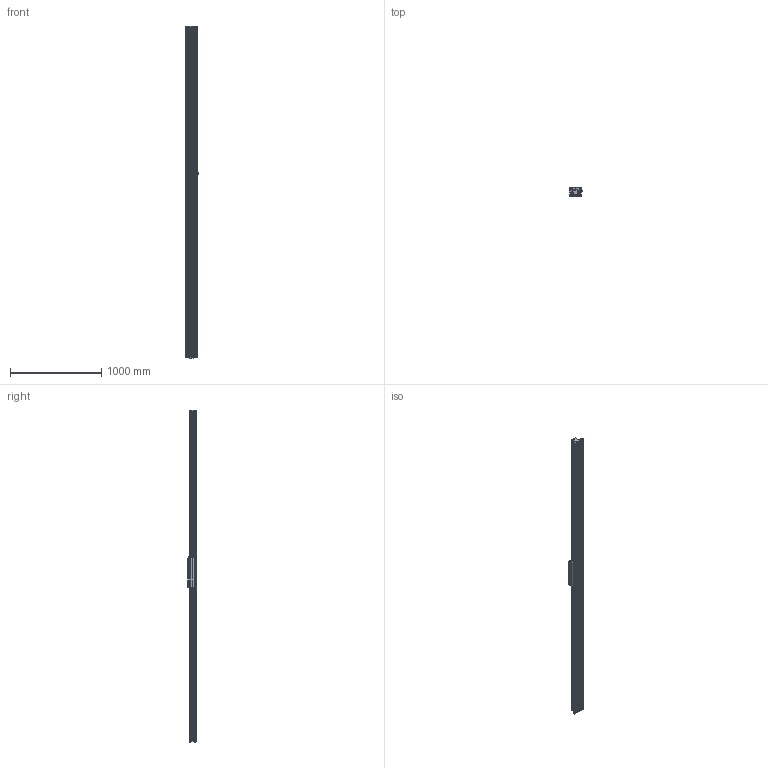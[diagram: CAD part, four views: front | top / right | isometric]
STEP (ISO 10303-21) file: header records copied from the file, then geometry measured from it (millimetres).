
FILE_DESCRIPTION (( 'STEP AP214' ), '1' );
FILE_NAME ('SINADRIVES Linear motor stage MLL20400XS-XX-1-0-ST-00-03636.STEP', '2015-07-06T12:20:10', ( 'Tecnico' ), ( '' ), 'SwSTEP 2.0', 'SolidWorks 2009', '' );
FILE_SCHEMA (( 'AUTOMOTIVE_DESIGN' ));
Length unit declared in the file: millimetre
Products named in the file (7): SINADRIVES PROFILE MLL2XXXX-3620; SINADRIVES CARRIAGE MLL20400XS-1; CARRIAGE MLL20400; Connector power+signal Y-tec 45; SINADRIVES ENDBLOCK MLL2; SINADRIVES ENDBLOCK MLL2-2; SINADRIVES Linear motor stage MLL20400XS-XX-1-0-ST-00-03636
Assembly tree (6 placements, depth 3):
  SINADRIVES Linear motor stage MLL20400XS-XX-1-0-ST-00-03636
    SINADRIVES ENDBLOCK MLL2-2
    SINADRIVES ENDBLOCK MLL2
    SINADRIVES PROFILE MLL2XXXX-3620
    SINADRIVES CARRIAGE MLL20400XS-1
      Connector power+signal Y-tec 45
      CARRIAGE MLL20400
Bounding box: 144.43 x 91 x 3644.8 mm (x, y, z)
Volume: 16303331.9 mm3; surface area: 2795222.2 mm2
Topology: 2 solids, 42 shells, 950 faces, 2640 edges, 1730 vertices
Faces by surface type: plane 445, cylinder 302, bspline 79, cone 70, torus 42, sphere 12
Entity records: 40587 total; most frequent: CARTESIAN_POINT 8656, ORIENTED_EDGE 5024, DIRECTION 4947, EDGE_CURVE 2622, AXIS2_PLACEMENT_3D 1781, VERTEX_POINT 1730, VECTOR 1385, LINE 1385
